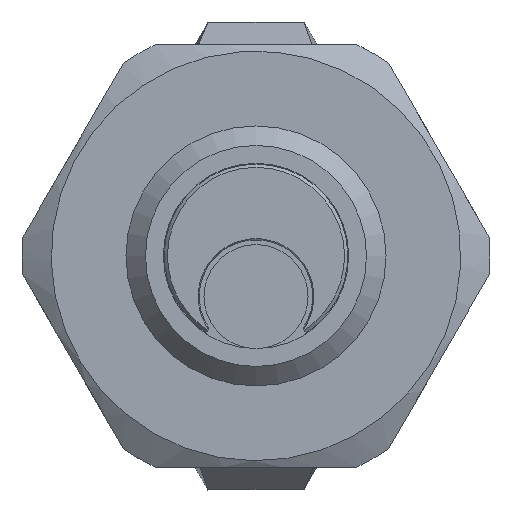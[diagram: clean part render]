
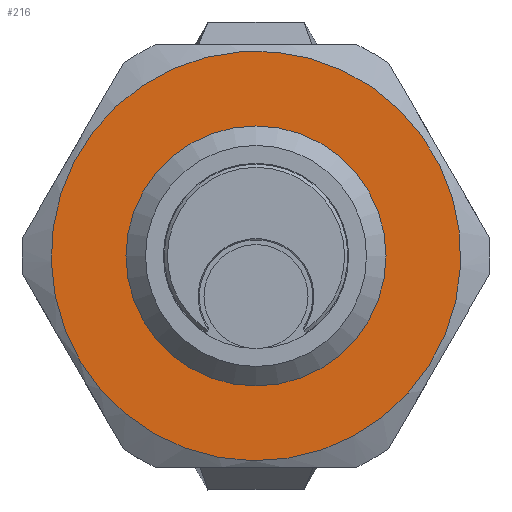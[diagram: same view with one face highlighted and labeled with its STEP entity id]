
A CAD part, left-side view. The second image highlights one B-rep face of the part: STEP entity #216.
In plain terms, the highlighted planar face has unit normal (-1, 0, 0) as drawn and (0, -1, 0) by its records, which use the part's own axes.
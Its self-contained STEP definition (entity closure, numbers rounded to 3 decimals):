
#216 = ADVANCED_FACE( '', ( #306, #307 ), #308, .F. );
#306 = FACE_BOUND( '', #400, .T. );
#307 = FACE_OUTER_BOUND( '', #401, .T. );
#308 = PLANE( '', #402 );
#400 = EDGE_LOOP( '', ( #650 ) );
#401 = EDGE_LOOP( '', ( #651 ) );
#402 = AXIS2_PLACEMENT_3D( '', #652, #653, #654 );
#650 = ORIENTED_EDGE( '', *, *, #735, .T. );
#651 = ORIENTED_EDGE( '', *, *, #731, .T. );
#652 = CARTESIAN_POINT( '', ( 0., -2., 0. ) );
#653 = DIRECTION( '', ( 0., 1., 0. ) );
#654 = DIRECTION( '', ( 0., 0., 1. ) );
#731 = EDGE_CURVE( '', #850, #850, #851, .T. );
#735 = EDGE_CURVE( '', #858, #858, #859, .T. );
#850 = VERTEX_POINT( '', #1104 );
#851 = CIRCLE( '', #1105, 6.3 );
#858 = VERTEX_POINT( '', #1112 );
#859 = CIRCLE( '', #1113, 3.959 );
#1104 = CARTESIAN_POINT( '', ( 0., -2., -6.3 ) );
#1105 = AXIS2_PLACEMENT_3D( '', #1218, #1219, #1220 );
#1112 = CARTESIAN_POINT( '', ( 0., -2., 3.959 ) );
#1113 = AXIS2_PLACEMENT_3D( '', #1230, #1231, #1232 );
#1218 = CARTESIAN_POINT( '', ( 0., -2., 0. ) );
#1219 = DIRECTION( '', ( 0., -1., 0. ) );
#1220 = DIRECTION( '', ( 0., 0., -1. ) );
#1230 = CARTESIAN_POINT( '', ( 0., -2., 0. ) );
#1231 = DIRECTION( '', ( 0., 1., 0. ) );
#1232 = DIRECTION( '', ( 0., 0., 1. ) );
